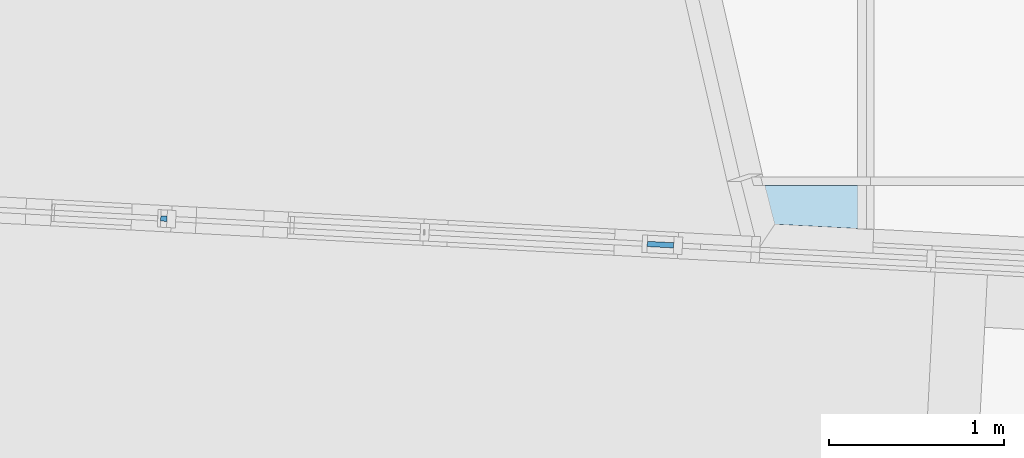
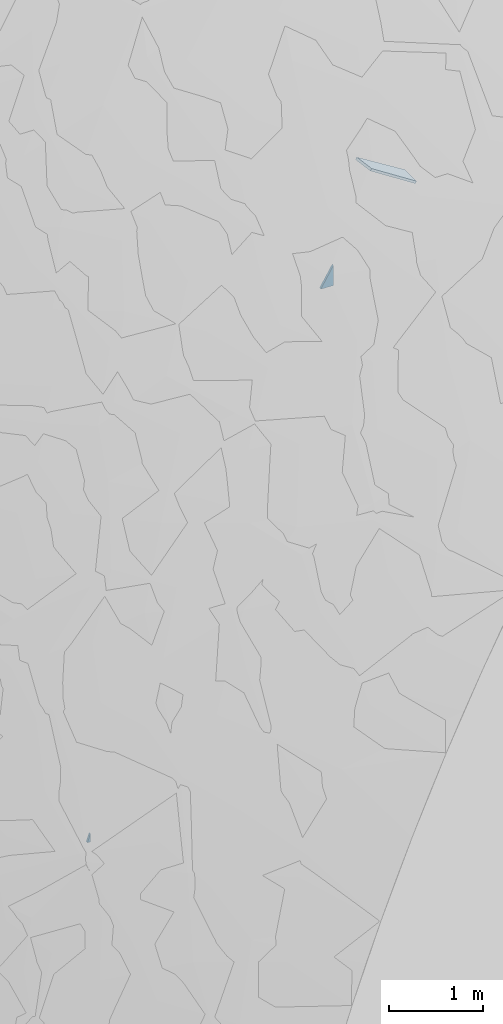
# One storey, part 46 of 82: 3 plates, 1 element without a shape of its own.
"""IFC2X3 building model written with IfcOpenShell, lengths in millimetres."""

from ifc_helpers import new_model, entity, si_unit, converted_unit, derived_unit, direction, frame, origin, place, context, subcontext, project, spatial, polyline, outline, extrude, source, transform, mapped, material, layer, layer_set, layer_usage, type_object, type_shapes, element, aggregate, save


model = new_model("IFC2X3")

# Units and contexts
model_context = context("Model", 3, precision=0.01, world=origin(), true_north=direction((6.12303176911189e-17, 1.0)))
body_context = subcontext(model_context, "Body", "Model", "MODEL_VIEW")
ifc_project = project(units=[si_unit("LENGTHUNIT", "METRE", prefix="MILLI"), si_unit("AREAUNIT", "SQUARE_METRE"), si_unit("VOLUMEUNIT", "CUBIC_METRE"), converted_unit("PLANEANGLEUNIT", "DEGREE", entity("IfcRatioMeasure", 0.0174532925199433), si_unit("PLANEANGLEUNIT", "RADIAN"), dimensions=[0, 0, 0, 0, 0, 0, 0]), si_unit("MASSUNIT", "GRAM", prefix="KILO"), derived_unit("MASSDENSITYUNIT", [(si_unit("MASSUNIT", "GRAM", prefix="KILO"), 1), (si_unit("LENGTHUNIT", "METRE"), -3)]), si_unit("TIMEUNIT", "SECOND"), si_unit("FREQUENCYUNIT", "HERTZ"), si_unit("THERMODYNAMICTEMPERATUREUNIT", "DEGREE_CELSIUS"), derived_unit("THERMALTRANSMITTANCEUNIT", [(si_unit("MASSUNIT", "GRAM", prefix="KILO"), 1), (si_unit("THERMODYNAMICTEMPERATUREUNIT", "KELVIN"), -1), (si_unit("TIMEUNIT", "SECOND"), -3)]), derived_unit("VOLUMETRICFLOWRATEUNIT", [(si_unit("LENGTHUNIT", "METRE"), 3), (si_unit("TIMEUNIT", "SECOND"), -1)]), si_unit("ELECTRICCURRENTUNIT", "AMPERE"), si_unit("ELECTRICVOLTAGEUNIT", "VOLT"), si_unit("POWERUNIT", "WATT"), si_unit("FORCEUNIT", "NEWTON", prefix="KILO"), si_unit("ILLUMINANCEUNIT", "LUX"), si_unit("LUMINOUSFLUXUNIT", "LUMEN"), si_unit("LUMINOUSINTENSITYUNIT", "CANDELA"), derived_unit("USERDEFINED", [(si_unit("MASSUNIT", "GRAM", prefix="KILO"), -1), (si_unit("LENGTHUNIT", "METRE"), -2), (si_unit("TIMEUNIT", "SECOND"), 3), (si_unit("LUMINOUSFLUXUNIT", "LUMEN"), 1)]), derived_unit("LINEARVELOCITYUNIT", [(si_unit("LENGTHUNIT", "METRE"), 1), (si_unit("TIMEUNIT", "SECOND"), -1)]), si_unit("PRESSUREUNIT", "PASCAL"), derived_unit("USERDEFINED", [(si_unit("LENGTHUNIT", "METRE"), -2), (si_unit("MASSUNIT", "GRAM", prefix="KILO"), 1), (si_unit("TIMEUNIT", "SECOND"), -2)])], contexts=[model_context])

# Site, building, storey
site_placement = place(None, origin())
site = spatial("IfcSite", under=ifc_project, at=site_placement, Name="表面", CompositionType="ELEMENT")
building_placement = place(site_placement, origin())
building = spatial("IfcBuilding", under=site, at=building_placement, CompositionType="ELEMENT")
storey_placement = place(building_placement, origin())
storey = spatial("IfcBuildingStorey", under=building, at=storey_placement, Name="1F", CompositionType="ELEMENT", Elevation=0.0)

# Curtain wall, plates
curtain_wall_type = type_object("IfcCurtainWallType", Name="幕墙系统:1450 x 2100mm", PredefinedType="NOTDEFINED")
curtain_wall_placement = place(storey_placement, origin())
curtain_wall = element("IfcCurtainWall", 1, at=curtain_wall_placement, inside=storey, type_object=curtain_wall_type, Name="幕墙系统:1450 x 2100mm", ObjectType="幕墙系统:1450 x 2100mm")
ifc_material = material(Name="<Unnamed>")
ifc_layer = layer(ifc_material, 30.0)
ifc_layer_set = layer_set([ifc_layer], Name="幕墙系统:1450 x 2100mm")
ifc_layer_usage_1 = layer_usage(ifc_layer_set, "AXIS3", "POSITIVE", 0.0)
plate_type_1 = type_object("IfcPlateType", Name="玻璃", PredefinedType="CURTAIN_PANEL", material=ifc_layer_set)
shared_shape_1 = source(origin(), body_context, "Body", "SweptSolid", [
    extrude(outline(polyline([(-333.316623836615, -116.649890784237), (366.233191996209, -116.649890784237), (300.400055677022, 102.567338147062), (-333.316623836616, 130.732443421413), (-333.316623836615, -116.649890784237)])), frame((-7.04127631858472, -15.0, 333.316623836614), z_axis=(0.0, 1.0, 0.0), x_axis=(0.0, 0.0, 1.0)), (0.0, 0.0, 1.0), 30.0),
])
type_shapes(plate_type_1, [shared_shape_1])
plate_1_placement = place(curtain_wall_placement, frame((-28844.8058250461, -28037.5943206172, 17720.4320530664), z_axis=(-0.848048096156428, 0.0, 0.529919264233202), x_axis=(0.0, -1.0, 0.0)))
plate_1 = element("IfcPlate", 2, at=plate_1_placement, type_object=plate_type_1, material=ifc_layer_usage_1, Name="系统嵌板:玻璃", ObjectType="玻璃", context=body_context, shape_type="MappedRepresentation", body=[
    mapped(shared_shape_1, transform((0.0, 0.0, 0.0), scale=1.0)),
])
ifc_layer_usage_2 = layer_usage(ifc_layer_set, "AXIS3", "POSITIVE", 0.0)
plate_type_2 = type_object("IfcPlateType", Name="玻璃", PredefinedType="CURTAIN_PANEL", material=ifc_layer_set)
shared_shape_2 = source(origin(), body_context, "Body", "SweptSolid", [
    extrude(outline(polyline([(-35.8301933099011, -11.9932399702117), (71.6603866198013, -11.9932399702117), (-35.8301933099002, 23.9864799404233), (-35.8301933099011, -11.9932399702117)])), frame((-5.99661998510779, -15.0, 35.8301933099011), z_axis=(0.0, 1.0, 0.0), x_axis=(0.0, 0.0, 1.0)), (0.0, 0.0, 1.0), 30.0),
])
type_shapes(plate_type_2, [shared_shape_2])
plate_2_placement = place(curtain_wall_placement, frame((-32835.6596269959, -28102.2817767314, 10525.0), z_axis=(0.0, 0.0, 1.0), x_axis=(-0.998629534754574, 0.0523359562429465, 0.0)))
plate_2 = element("IfcPlate", 3, at=plate_2_placement, type_object=plate_type_2, material=ifc_layer_usage_2, Name="系统嵌板:玻璃", ObjectType="玻璃", context=body_context, shape_type="MappedRepresentation", body=[
    mapped(shared_shape_2, transform((0.0, 0.0, 0.0), scale=1.0)),
])
ifc_layer_usage_3 = layer_usage(ifc_layer_set, "AXIS3", "POSITIVE", 0.0)
plate_type_3 = type_object("IfcPlateType", Name="玻璃", PredefinedType="CURTAIN_PANEL", material=ifc_layer_set)
shared_shape_3 = source(origin(), body_context, "Body", "SweptSolid", [
    extrude(outline(polyline([(-86.9489277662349, -50.3528002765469), (173.89785553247, -50.3528002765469), (-86.9489277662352, 100.705600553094), (-86.9489277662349, -50.3528002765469)])), frame((-25.1764001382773, -15.0, 86.9489277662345), z_axis=(0.0, 1.0, 0.0), x_axis=(0.0, 0.0, 1.0)), (0.0, 0.0, 1.0), 30.0),
])
type_shapes(plate_type_3, [shared_shape_3])
plate_3_placement = place(curtain_wall_placement, frame((-29997.0944610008, -28251.0446734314, 16825.0), z_axis=(0.0, 0.0, 1.0), x_axis=(-0.998629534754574, 0.0523359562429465, 0.0)))
plate_3 = element("IfcPlate", 4, at=plate_3_placement, type_object=plate_type_3, material=ifc_layer_usage_3, Name="系统嵌板:玻璃", ObjectType="玻璃", context=body_context, shape_type="MappedRepresentation", body=[
    mapped(shared_shape_3, transform((0.0, 0.0, 0.0), scale=1.0)),
])
aggregate(curtain_wall, [plate_1, plate_2, plate_3])

save(model, "model.ifc")
